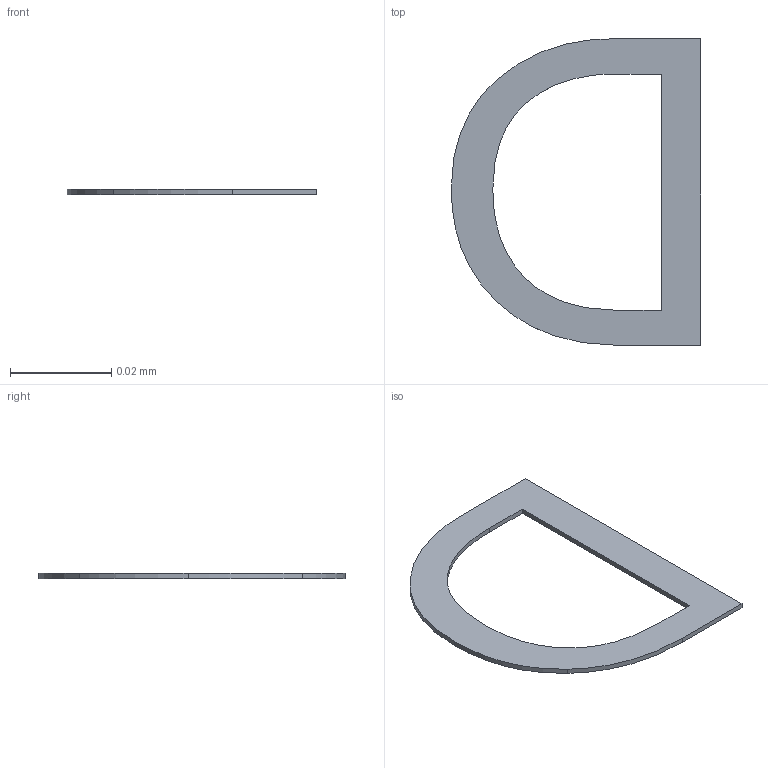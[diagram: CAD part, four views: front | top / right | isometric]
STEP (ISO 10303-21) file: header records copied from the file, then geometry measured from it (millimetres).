
FILE_DESCRIPTION(/* description */ ('STEP AP242 Edition 2','CAx-IF Rec.Pracs.---Representation and Presentation of Product Manufacturing Information (PMI)---4.0---2014-10-13','CAx-IF Rec.Pracs.---3D Tessellated Geometry---0.4---2014-09-14','2;1','CAx-IF Rec.Pracs.---User Defined Attributes---1.5---2016-08-15'),/* implementation_level */ '2;1');
FILE_NAME(/* name */ 'Assembly 1 - SOT-23-6_L2.9-W1.6-P0.95-LS2.8-BL~SOT-23-6_L2.9-W1.6-H1.5-LS2.8-P0.95~nxQB (18)',/* time_stamp */ '2026-04-02T09:55:24Z',/* author */ (''),/* organization */ (''),/* preprocessor_version */ 'ST-DEVELOPER v20',/* originating_system */ 'ONSHAPE BY PTC INC, 1.212',/* authorisation */ ' ');
FILE_SCHEMA (('AP242_MANAGED_MODEL_BASED_3D_ENGINEERING_MIM_LF { 1 0 10303 442 3 1 4 }'));
Length unit declared in the file: metre
Products named in the file (1): SOT-23-6_L2.9-W1.6-P0.95-LS2.8-BL~SOT-23-6_L2.9-W1.6-H1.5-LS2.8-P0.95
~nxQB
Bounding box: 0.05 x 0.06 x 0 mm (x, y, z)
Volume: 0 mm3; surface area: 0 mm2
Topology: 1 solids, 1 shells, 16 faces, 42 edges, 28 vertices
Faces by surface type: bspline 8, plane 8
Entity records: 673 total; most frequent: CARTESIAN_POINT 191, ORIENTED_EDGE 84, DIRECTION 44, EDGE_CURVE 42, VERTEX_POINT 28, LINE 26, VECTOR 26, EDGE_LOOP 18
